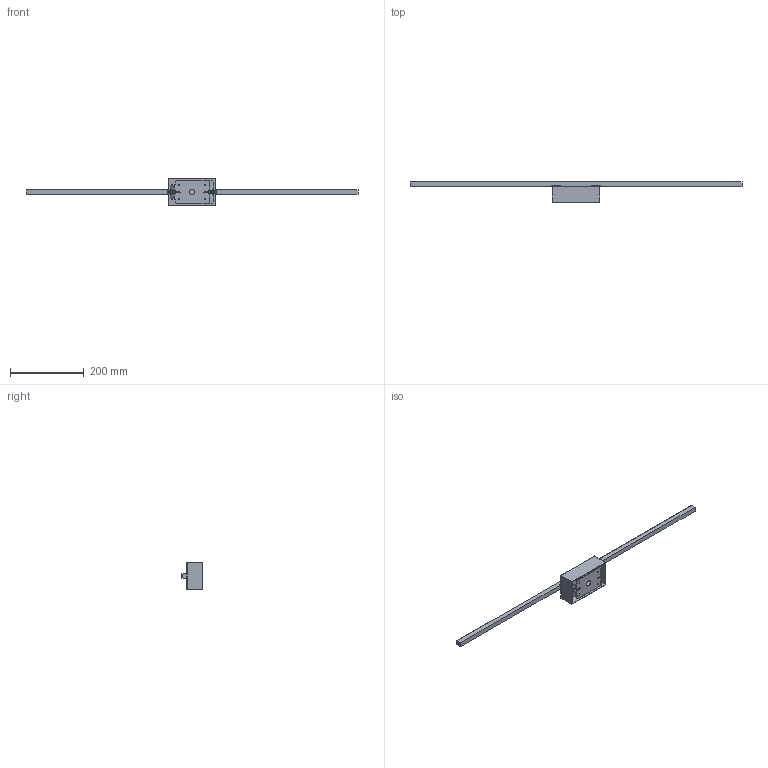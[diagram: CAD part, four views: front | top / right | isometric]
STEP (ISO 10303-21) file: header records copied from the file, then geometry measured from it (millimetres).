
FILE_DESCRIPTION (( 'STEP AP203' ), '1' );
FILE_NAME ('WS18236-CH.STEP', '2020-09-21T21:33:12', ( '' ), ( '' ), 'SwSTEP 2.0', 'SolidWorks 2018', '' );
FILE_SCHEMA (( 'CONFIG_CONTROL_DESIGN' ));
Length unit declared in the file: millimetre
Products named in the file (9): WS18236-CH; CANOPY; COAXIAL FEMAL; COAXIAL MALE; M8 x 1 NUT; VEGA MINOR WALL MOUNT LIGHT_DIRECT 36; SINGLE BACK PLATE; CANOPY_single; LIGHT_DIRECT 36
Assembly tree (11 placements, depth 3):
  WS18236-CH
    CANOPY_single
      CANOPY
      COAXIAL MALE  x2
      M8 x 1 NUT  x2
      SINGLE BACK PLATE
    VEGA MINOR WALL MOUNT LIGHT_DIRECT 36
      LIGHT_DIRECT 36
      COAXIAL FEMAL  x2
Bounding box: 900 x 55.3 x 75 mm (x, y, z)
Volume: 210950 mm3; surface area: 145343.3 mm2
Topology: 16 solids, 16 shells, 566 faces, 1420 edges, 906 vertices
Faces by surface type: plane 220, cylinder 212, bspline 72, cone 34, torus 24, sphere 4
Entity records: 22822 total; most frequent: CARTESIAN_POINT 13661, ORIENTED_EDGE 1740, DIRECTION 1651, EDGE_CURVE 870, AXIS2_PLACEMENT_3D 610, VERTEX_POINT 555, VECTOR 431, LINE 431
